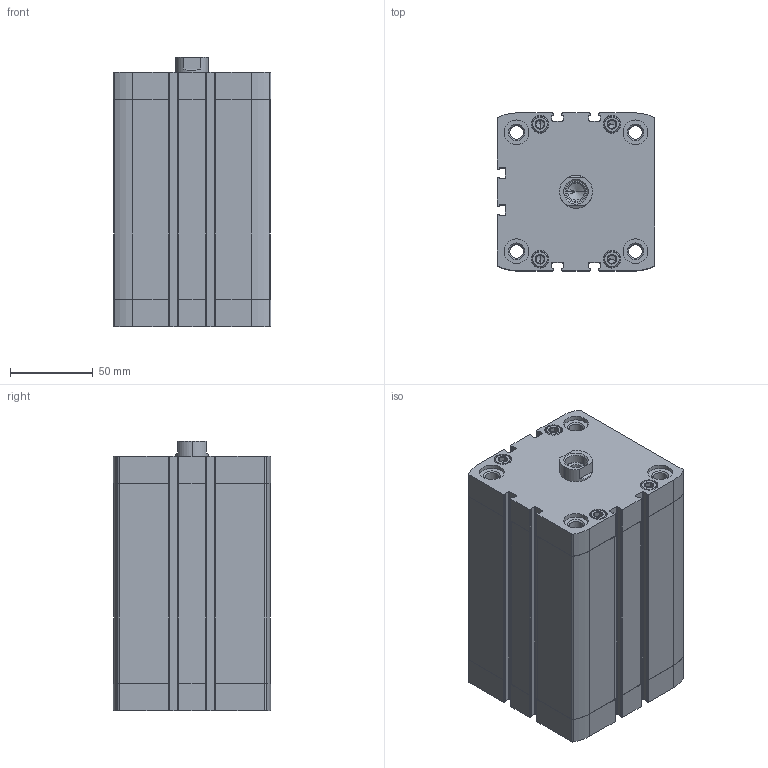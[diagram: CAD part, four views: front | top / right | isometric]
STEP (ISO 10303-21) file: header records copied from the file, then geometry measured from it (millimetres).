
FILE_DESCRIPTION (( 'STEP AP203' ), '1' );
FILE_NAME ('CCN80-100F.STEP', '2017-04-05T19:48:59', ( '' ), ( '' ), 'SwSTEP 2.0', 'SolidWorks 2016', '' );
FILE_SCHEMA (( 'CONFIG_CONTROL_DESIGN' ));
Length unit declared in the file: millimetre
Products named in the file (3): CCN-100---(Z); CCN-100_(KS); CCN80-100F
Assembly tree (2 placements, depth 2):
  CCN80-100F
    CCN-100---(Z)
    CCN-100_(KS)
Bounding box: 95.5 x 95.5 x 162.9 mm (x, y, z)
Volume: 842863.7 mm3; surface area: 171329.7 mm2
Topology: 2 solids, 2 shells, 487 faces, 1232 edges, 779 vertices
Faces by surface type: plane 227, cylinder 186, cone 74
Entity records: 15281 total; most frequent: CARTESIAN_POINT 3035, DIRECTION 2616, ORIENTED_EDGE 2428, EDGE_CURVE 1214, AXIS2_PLACEMENT_3D 976, VERTEX_POINT 779, LINE 664, VECTOR 664
